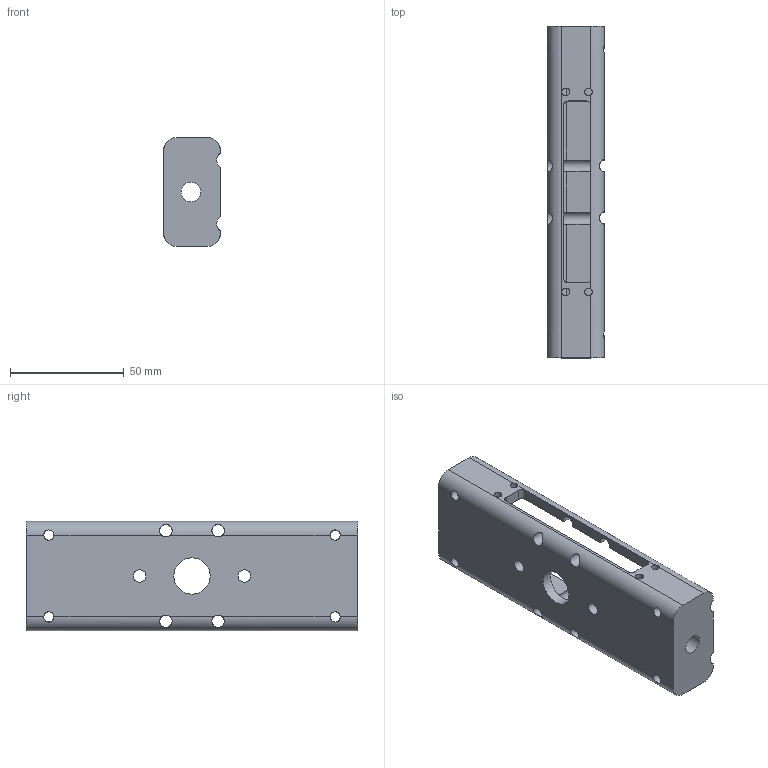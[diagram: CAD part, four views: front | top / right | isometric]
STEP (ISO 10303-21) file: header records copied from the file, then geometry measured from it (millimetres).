
FILE_DESCRIPTION(('Open CASCADE Model'),'2;1');
FILE_NAME('Open CASCADE Shape Model','2026-10-17T16:45:06',('Author'),( 'Open CASCADE'),'Open CASCADE STEP processor 8.0','build123d', 'Unknown');
FILE_SCHEMA(('AUTOMOTIVE_DESIGN { 1 0 10303 214 1 1 1 1 }'));
Length unit declared in the file: millimetre
Products named in the file (1): COMPOUND
Bounding box: 25 x 146 x 48 mm (x, y, z)
Volume: 63389.4 mm3; surface area: 28560.4 mm2
Topology: 1 solids, 1 shells, 57 faces, 227 edges, 150 vertices
Faces by surface type: cylinder 33, plane 24
Full cylindrical faces by diameter (mm): 3.4 x4, 4.5 x4, 5.5 x6, 8.6 x2, 16 x1
Entity records: 10971 total; most frequent: CARTESIAN_POINT 6944, DIRECTION 627, ORIENTED_EDGE 454, PCURVE 454, DEFINITIONAL_REPRESENTATION 454, LINE 325, VECTOR 325, EDGE_CURVE 227
